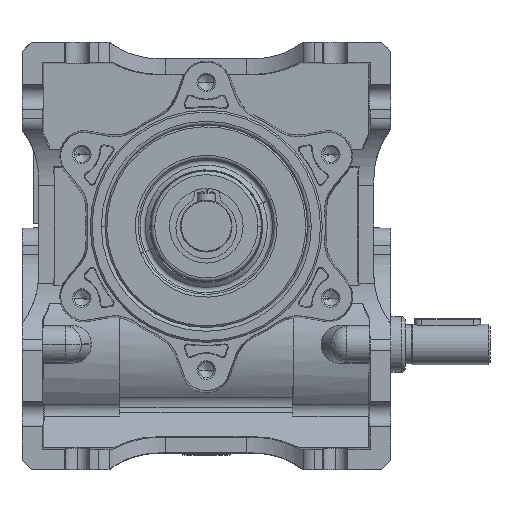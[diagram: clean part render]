
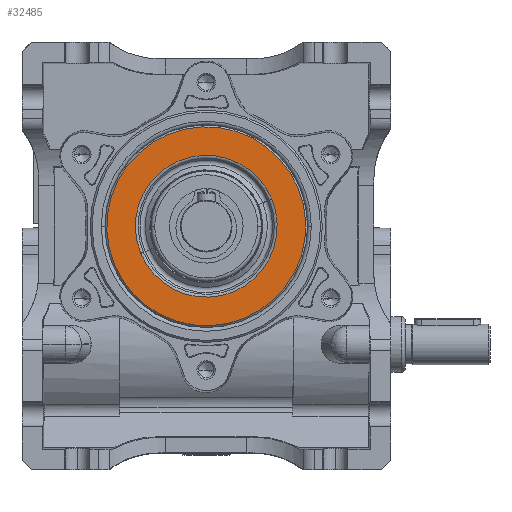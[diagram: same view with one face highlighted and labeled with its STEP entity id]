
A CAD part, top view. The second image highlights one B-rep face of the part: STEP entity #32485.
In plain terms, the highlighted planar face has unit normal (0, 0, 1).
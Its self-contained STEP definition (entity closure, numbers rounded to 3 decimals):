
#773 = DIRECTION ( 'NONE',  ( 0.924, 0.383, 0. ) ) ;
#1331 = CARTESIAN_POINT ( 'NONE',  ( -7.371, 17.775, 39. ) ) ;
#2228 = CARTESIAN_POINT ( 'NONE',  ( -24.941, -10.342, 39. ) ) ;
#3607 = EDGE_CURVE ( 'NONE', #15340, #9108, #42339, .T. ) ;
#3630 = CARTESIAN_POINT ( 'NONE',  ( 24.941, 10.342, 39. ) ) ;
#4391 = DIRECTION ( 'NONE',  ( 0.924, 0.383, 0. ) ) ;
#4643 = FACE_BOUND ( 'NONE', #40601, .T. ) ;
#5963 = EDGE_CURVE ( 'NONE', #9108, #15340, #35184, .T. ) ;
#6863 = CIRCLE ( 'NONE', #31884, 27. ) ;
#8611 = EDGE_CURVE ( 'NONE', #14281, #12637, #17631, .T. ) ;
#8661 = FACE_OUTER_BOUND ( 'NONE', #28746, .T. ) ;
#9108 = VERTEX_POINT ( 'NONE', #9507 ) ;
#9252 = CARTESIAN_POINT ( 'NONE',  ( 0., 0., 39. ) ) ;
#9418 = AXIS2_PLACEMENT_3D ( 'NONE', #1331, #11142, #11584 ) ;
#9507 = CARTESIAN_POINT ( 'NONE',  ( 17.775, 7.371, 39. ) ) ;
#11142 = DIRECTION ( 'NONE',  ( 0., 0., 1. ) ) ;
#11287 = CARTESIAN_POINT ( 'NONE',  ( -17.775, -7.371, 39. ) ) ;
#11584 = DIRECTION ( 'NONE',  ( 0.924, 0.383, 0. ) ) ;
#12637 = VERTEX_POINT ( 'NONE', #3630 ) ;
#14281 = VERTEX_POINT ( 'NONE', #2228 ) ;
#15340 = VERTEX_POINT ( 'NONE', #11287 ) ;
#15984 = DIRECTION ( 'NONE',  ( 0.924, 0.383, 0. ) ) ;
#17631 = CIRCLE ( 'NONE', #40514, 27. ) ;
#17740 = DIRECTION ( 'NONE',  ( 0., 0., 1. ) ) ;
#17839 = EDGE_CURVE ( 'NONE', #12637, #14281, #6863, .T. ) ;
#18025 = AXIS2_PLACEMENT_3D ( 'NONE', #9252, #29178, #15984 ) ;
#18369 = ORIENTED_EDGE ( 'NONE', *, *, #3607, .F. ) ;
#21396 = CARTESIAN_POINT ( 'NONE',  ( 0., 0., 39. ) ) ;
#22765 = CARTESIAN_POINT ( 'NONE',  ( 0., 0., 39. ) ) ;
#23662 = DIRECTION ( 'NONE',  ( 0.924, 0.383, 0. ) ) ;
#27339 = AXIS2_PLACEMENT_3D ( 'NONE', #21396, #35051, #4391 ) ;
#28746 = EDGE_LOOP ( 'NONE', ( #38030, #36167 ) ) ;
#28817 = PLANE ( 'NONE',  #9418 ) ;
#29178 = DIRECTION ( 'NONE',  ( 0., 0., 1. ) ) ;
#31884 = AXIS2_PLACEMENT_3D ( 'NONE', #34755, #17740, #773 ) ;
#32485 = ADVANCED_FACE ( 'NONE', ( #8661, #4643 ), #28817, .T. ) ;
#34755 = CARTESIAN_POINT ( 'NONE',  ( 0., 0., 39. ) ) ;
#35051 = DIRECTION ( 'NONE',  ( 0., 0., 1. ) ) ;
#35184 = CIRCLE ( 'NONE', #18025, 19.242 ) ;
#36167 = ORIENTED_EDGE ( 'NONE', *, *, #17839, .T. ) ;
#38030 = ORIENTED_EDGE ( 'NONE', *, *, #8611, .T. ) ;
#40514 = AXIS2_PLACEMENT_3D ( 'NONE', #22765, #44021, #23662 ) ;
#40601 = EDGE_LOOP ( 'NONE', ( #40988, #18369 ) ) ;
#40988 = ORIENTED_EDGE ( 'NONE', *, *, #5963, .F. ) ;
#42339 = CIRCLE ( 'NONE', #27339, 19.242 ) ;
#44021 = DIRECTION ( 'NONE',  ( 0., 0., 1. ) ) ;
